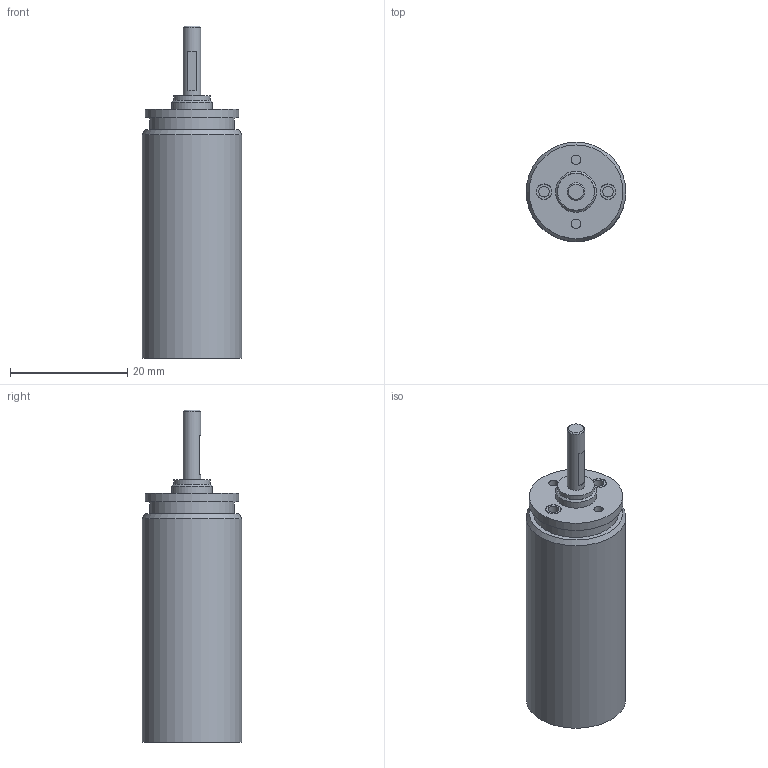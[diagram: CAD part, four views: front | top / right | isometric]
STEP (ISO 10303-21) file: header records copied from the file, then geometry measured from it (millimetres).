
FILE_DESCRIPTION(/* description */ (''),/* implementation_level */ '2;1');
FILE_NAME(/* name */ '16-5_9.stp',/* time_stamp */ '2016-08-25T11:43:15+02:00',/* author */ ('DR. FRITZ FAULHABER GmbH & Co. KG'),/* organization */ ('DR. FRITZ FAULHABER GmbH & Co. KG'),/* preprocessor_version */ 'ST-DEVELOPER v16',/* originating_system */ 'SIEMENS PLM Software NX 10.0',/* authorisation */ '');
FILE_SCHEMA (('AUTOMOTIVE_DESIGN { 1 0 10303 214 3 1 1 1 }'));
Length unit declared in the file: millimetre
Products named in the file (1): H00000538_A
Bounding box: 17 x 17 x 56.7 mm (x, y, z)
Volume: 6957.7 mm3; surface area: 3674.7 mm2
Topology: 1 solids, 1 shells, 41 faces, 65 edges, 43 vertices
Faces by surface type: plane 21, cylinder 17, cone 3
Full cylindrical faces by diameter (mm): 1.6 x2, 1.8 x2, 2.48 x1, 2.584 x2, 2.684 x2, 3 x1, 6 x1, 6.3 x1, 7 x1, 14.5 x1, 16 x2, 17 x1
Entity records: 856 total; most frequent: DIRECTION 166, CARTESIAN_POINT 126, ORIENTED_EDGE 86, AXIS2_PLACEMENT_3D 81, EDGE_LOOP 78, FACE_BOUND 69, EDGE_CURVE 43, ADVANCED_FACE 41
